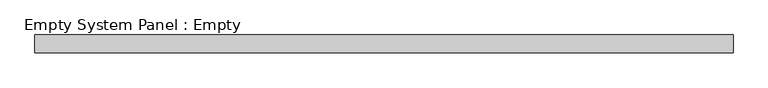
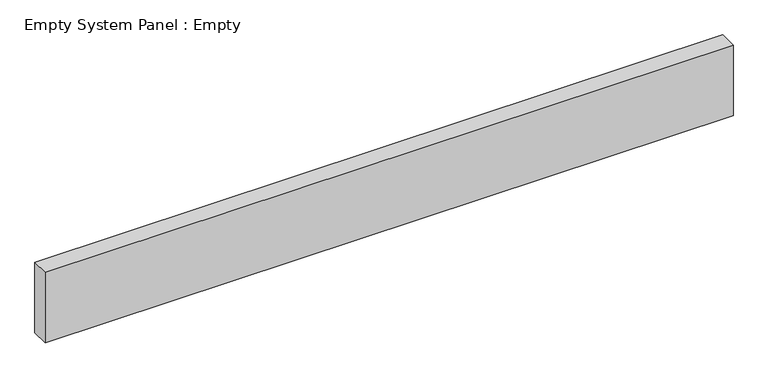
"""IFC4 building model written with IfcOpenShell, lengths in millimetres: plate geometry, Empty System Panel : Empty."""

import ifcopenshell
import ifcopenshell.guid

model = None  # the IFC model being written
_history = None  # IfcOwnerHistory: only IFC2X3 demands one
_inside = {}  # id of a spatial element -> (the spatial element, [elements in it])
_under = {}  # id of a project, library or spatial element -> (it, [spatial elements below it])
_declared = {}  # id of a project -> (the project, [libraries it declares])
_typed = {}  # id of a type object -> (the type object, [elements of that type])
_made_of = {}  # id of a material, layer set ... -> (it, [elements and type objects made of it])


def new_model(schema):
    """Start an empty IFC model of exactly this schema.

    Asked for "IFC4X3", IfcOpenShell would pick the latest addendum, in which some entities
    have other attributes; the version numbers below select the first issue.
    IFC2X3 requires an IfcOwnerHistory on every rooted entity: one is made here for all.
    """
    global model, _history
    if schema == "IFC4X3":
        model = ifcopenshell.file(schema_version=(4, 3, 0, 0))
    else:
        model = ifcopenshell.file(schema=schema)
    _inside.clear()
    _under.clear()
    _declared.clear()
    _typed.clear()
    _made_of.clear()
    _history = None
    if model.schema == "IFC2X3":
        org = make("IfcOrganization", Name="unknown")
        user = make(
            "IfcPersonAndOrganization",
            ThePerson=make("IfcPerson", FamilyName="unknown"),
            TheOrganization=org,
        )
        app = make(
            "IfcApplication",
            ApplicationDeveloper=org,
            Version="unknown",
            ApplicationFullName="unknown",
            ApplicationIdentifier="unknown",
        )
        _history = make(
            "IfcOwnerHistory",
            OwningUser=user,
            OwningApplication=app,
            ChangeAction="ADDED",
            CreationDate=0,
        )
    return model


def make(cls, **values):
    """One entity of the class cls with the attributes given. An attribute that is None is left unset."""
    return model.create_entity(
        cls, **{name: value for name, value in values.items() if value is not None}
    )


def rooted(cls, **values):
    """An entity with a GlobalId (a new one), such as an element, a storey or a relation."""
    return make(cls, GlobalId=ifcopenshell.guid.new(), OwnerHistory=_history, **values)


def si_unit(unit_type, name, prefix=None):
    """IfcSIUnit, for example si_unit("LENGTHUNIT", "METRE", prefix="MILLI")."""
    return make("IfcSIUnit", UnitType=unit_type, Prefix=prefix, Name=name)


def assignment(units):
    """IfcUnitAssignment: the units of a project."""
    return None if units is None else make("IfcUnitAssignment", Units=units)


def point(xyz):
    """IfcCartesianPoint."""
    return None if xyz is None else make("IfcCartesianPoint", Coordinates=xyz)


def direction(xyz):
    """IfcDirection."""
    return None if xyz is None else make("IfcDirection", DirectionRatios=xyz)


def frame(location, z_axis=None, x_axis=None):
    """IfcAxis2Placement3D, a coordinate frame: its origin and axes. An axis left out is left unset."""
    return make(
        "IfcAxis2Placement3D",
        Location=point(location),
        Axis=direction(z_axis),
        RefDirection=direction(x_axis),
    )


def origin():
    """The frame at (0, 0, 0) with its axes left unset."""
    return frame((0.0, 0.0, 0.0))


def origin_with_axes():
    """The frame at (0, 0, 0) with the z axis (0, 0, 1) and the x axis (1, 0, 0) written out."""
    return frame((0.0, 0.0, 0.0), z_axis=(0.0, 0.0, 1.0), x_axis=(1.0, 0.0, 0.0))


def place(relative_to, where):
    """IfcLocalPlacement: puts the frame where relative to a parent placement (None: the world)."""
    return make(
        "IfcLocalPlacement", PlacementRelTo=relative_to, RelativePlacement=where
    )


def context(
    kind, dimensions, precision=None, world=None, true_north=None, identifier=None
):
    """IfcGeometricRepresentationContext, for example the 3D "Model" context."""
    return make(
        "IfcGeometricRepresentationContext",
        ContextIdentifier=identifier,
        ContextType=kind,
        CoordinateSpaceDimension=dimensions,
        Precision=precision,
        WorldCoordinateSystem=world,
        TrueNorth=true_north,
    )


def project(units=None, contexts=None):
    """IfcProject with its units and contexts."""
    return rooted(
        "IfcProject",
        Name="project",
        RepresentationContexts=contexts,
        UnitsInContext=assignment(units),
    )


def spatial(cls, under=None, at=None, **own):
    """A site, building, storey or space (cls), placed at a placement, below another one or the project."""
    s = rooted(cls, ObjectPlacement=at, **own)
    if under is not None:
        _under.setdefault(under.id(), (under, []))[1].append(s)
    return s


def polyline(points):
    """IfcPolyline through the points."""
    return make("IfcPolyline", Points=[point(p) for p in points])


def outline(outer, holes=None, kind="AREA"):
    """IfcArbitraryClosedProfileDef: a profile drawn as a closed curve; with holes, ...WithVoids."""
    if holes is None:
        return make("IfcArbitraryClosedProfileDef", ProfileType=kind, OuterCurve=outer)
    return make(
        "IfcArbitraryProfileDefWithVoids",
        ProfileType=kind,
        OuterCurve=outer,
        InnerCurves=holes,
    )


def extrude(swept, where, along, depth):
    """IfcExtrudedAreaSolid: the profile swept, set in the frame where, extruded along a direction by depth."""
    return make(
        "IfcExtrudedAreaSolid",
        SweptArea=swept,
        Position=where,
        ExtrudedDirection=direction(along),
        Depth=depth,
    )


def shape(context_of_items, identifier, shape_type, items):
    """IfcShapeRepresentation: the items that make up one representation, for example the "Body"."""
    return make(
        "IfcShapeRepresentation",
        ContextOfItems=context_of_items,
        RepresentationIdentifier=identifier,
        RepresentationType=shape_type,
        Items=items,
    )


def source(mapping_origin, context_of_items, identifier, shape_type, items):
    """IfcRepresentationMap: a shape defined once, which mapped items show again and again."""
    return make(
        "IfcRepresentationMap",
        MappingOrigin=mapping_origin,
        MappedRepresentation=shape(context_of_items, identifier, shape_type, items),
    )


def transform(
    local_origin,
    x_axis=None,
    y_axis=None,
    z_axis=None,
    scale=None,
    scale2=None,
    scale3=None,
    uniform=True,
):
    """IfcCartesianTransformationOperator3D, or its non-uniform kind. x_axis, y_axis, z_axis: its Axis1, 2, 3."""
    if uniform:
        return make(
            "IfcCartesianTransformationOperator3D",
            Axis1=direction(x_axis),
            Axis2=direction(y_axis),
            LocalOrigin=point(local_origin),
            Scale=scale,
            Axis3=direction(z_axis),
        )
    return make(
        "IfcCartesianTransformationOperator3DnonUniform",
        Axis1=direction(x_axis),
        Axis2=direction(y_axis),
        LocalOrigin=point(local_origin),
        Scale=scale,
        Axis3=direction(z_axis),
        Scale2=scale2,
        Scale3=scale3,
    )


def mapped(mapping_source, mapping_target):
    """IfcMappedItem: shows the shape of a source again, moved by a transform."""
    return make(
        "IfcMappedItem", MappingSource=mapping_source, MappingTarget=mapping_target
    )


def made_of(thing, what):
    """Note that an element or type object is made of a material, layer set ...; save() writes the relation."""
    if what is not None:
        _made_of.setdefault(what.id(), (what, []))[1].append(thing)
    return thing


def element(
    cls,
    number,
    at=None,
    inside=None,
    cuts=None,
    type_object=None,
    material=None,
    context=None,
    identifier="Body",
    shape_type=None,
    held_by="IfcProductDefinitionShape",
    body=None,
    shapes=None,
    **own,
):
    """One element of the class cls, such as IfcWall. Its Tag is "e" and its number.

    at: its placement. inside: the storey or other place that contains it. cuts: it is an
    opening in that element (IfcRelVoidsElement). A single representation is given by context,
    identifier, shape_type and body (its items); several are given by shapes. held_by: the class
    of the entity that holds the representations. save() writes the other relations.
    """
    e = rooted(cls, Tag="e%d" % number, ObjectPlacement=at, **own)
    if body is not None:
        shapes = [shape(context, identifier, shape_type, body)]
    if shapes is not None:
        e.Representation = make(held_by, Representations=shapes)
    if inside is not None:
        _inside.setdefault(inside.id(), (inside, []))[1].append(e)
    if cuts is not None:
        rooted(
            "IfcRelVoidsElement", RelatingBuildingElement=cuts, RelatedOpeningElement=e
        )
    if type_object is not None:
        _typed.setdefault(type_object.id(), (type_object, []))[1].append(e)
    return made_of(e, material)


def aggregate(whole, parts):
    """IfcRelAggregates: a whole, such as a stair, and the parts it consists of."""
    return rooted("IfcRelAggregates", RelatingObject=whole, RelatedObjects=parts)


def save(model, path):
    """Write the relations noted so far, then the file.

    IfcRelAggregates (storeys below a building ...), IfcRelContainedInSpatialStructure (elements
    in a storey), IfcRelDefinesByType, IfcRelAssociatesMaterial and IfcRelDeclares: one each for
    every whole, place, type object, material and project.
    """
    for whole, parts in _under.values():
        aggregate(whole, parts)
    for where, things in _inside.values():
        rooted(
            "IfcRelContainedInSpatialStructure",
            RelatedElements=things,
            RelatingStructure=where,
        )
    for kind, things in _typed.values():
        rooted("IfcRelDefinesByType", RelatedObjects=things, RelatingType=kind)
    for what, things in _made_of.values():
        rooted("IfcRelAssociatesMaterial", RelatedObjects=things, RelatingMaterial=what)
    for by, libraries in _declared.values():
        rooted("IfcRelDeclares", RelatingContext=by, RelatedDefinitions=libraries)
    model.write(path)


def empty_system_panel_empty_f2d115f6(model_context):
    return source(origin(), model_context, "Body", "SweptSolid", [
        extrude(outline(polyline([(1950.0, -150.0), (-1950.0, -150.0), (-1950.0, -50.0), (1950.0, -50.0), (1950.0, -150.0)])), origin_with_axes(), (0.0, 0.0, 1.0), 422.4),
    ])


if __name__ == "__main__":
    model = new_model("IFC4")
    model_context = context("Model", 3, world=origin())
    ifc_project = project(units=[si_unit("LENGTHUNIT", "METRE", prefix="MILLI")], contexts=[model_context])
    site = spatial("IfcSite", under=ifc_project)
    building = spatial("IfcBuilding", under=site)
    placement = place(None, origin())
    empty_system_panel_empty_shape = empty_system_panel_empty_f2d115f6(model_context)
    element("IfcPlate", 1, ObjectType="Empty System Panel : Empty", at=placement, inside=building, context=model_context, shape_type="MappedRepresentation", body=[
        mapped(empty_system_panel_empty_shape, transform((0.0, 0.0, 0.0), x_axis=(1.0, 0.0, 0.0), y_axis=(0.0, 1.0, 0.0), z_axis=(0.0, 0.0, 1.0))),
    ])
    save(model, "model.ifc")
